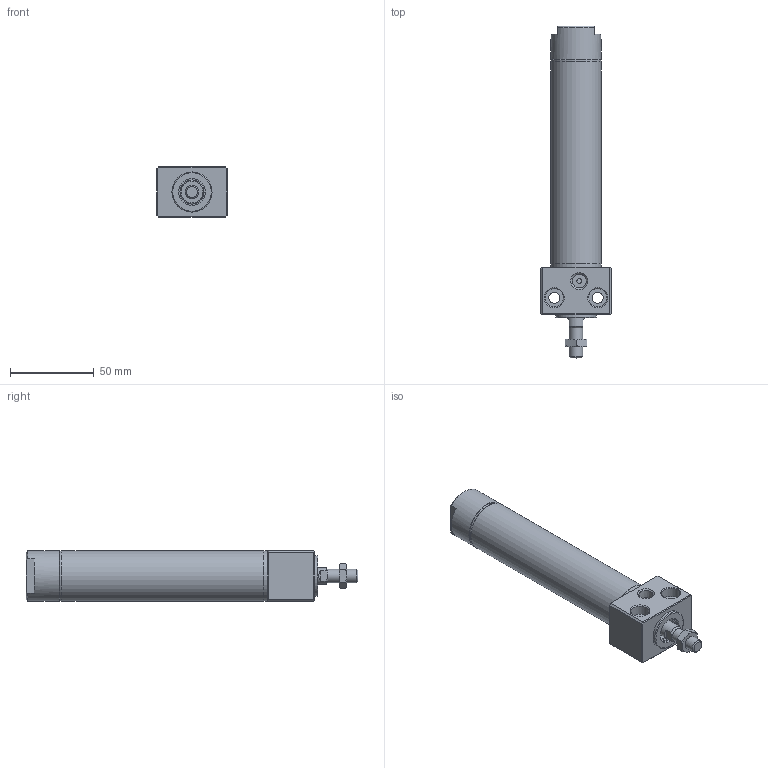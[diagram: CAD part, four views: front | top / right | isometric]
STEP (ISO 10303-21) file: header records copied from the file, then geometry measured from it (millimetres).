
FILE_DESCRIPTION((''),'2;1');
FILE_NAME('I:\3D電子目錄\氣缸\DBS\DBS\DBS25x75.stp','2007-10-08T08:34:15',('Administrator'),(''),'Autodesk Inventor 2008','Autodesk Inventor 2008','');
FILE_SCHEMA(('AUTOMOTIVE_DESIGN { 1 0 10303 214 1 1 1 1 }'));
Length unit declared in the file: millimetre
Products named in the file (1): DBS25x75
Bounding box: 42 x 198.6 x 30 mm (x, y, z)
Volume: 80653.9 mm3; surface area: 40545.6 mm2
Topology: 6 solids, 6 shells, 163 faces, 317 edges, 192 vertices
Faces by surface type: plane 72, cone 41, cylinder 35, bspline 12, torus 3
Full cylindrical faces by diameter (mm): 3 x1, 5 x1, 6 x1, 7 x1, 8 x2, 10 x1, 10.5 x1, 12 x1, 13 x2, 14 x1, 15.5 x2, 16 x2, 17 x1, 18 x2, 23 x2, 24 x1, 25 x1, 25.5 x2, 27.2 x6, 30 x4
Entity records: 3973 total; most frequent: CARTESIAN_POINT 911, DIRECTION 644, ORIENTED_EDGE 484, AXIS2_PLACEMENT_3D 284, EDGE_LOOP 278, EDGE_CURVE 242, VERTEX_POINT 188, FACE_OUTER_BOUND 163
